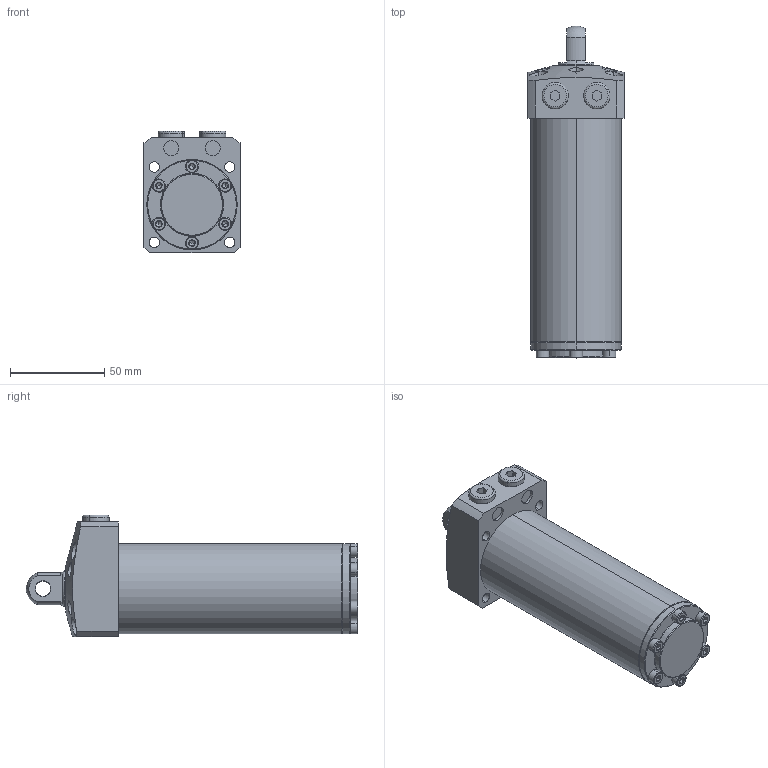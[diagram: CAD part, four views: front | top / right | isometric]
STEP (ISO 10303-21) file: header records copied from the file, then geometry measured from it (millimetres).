
FILE_DESCRIPTION (( 'STEP AP203' ), '1' );
FILE_NAME ('680480-CP-100.STEP', '2019-11-06T04:47:05', ( '微软用户' ), ( '微软中国' ), 'SwSTEP 2.0', 'SolidWorks 2014', '' );
FILE_SCHEMA (( 'CONFIG_CONTROL_DESIGN' ));
Length unit declared in the file: millimetre
Products named in the file (7): 葩璃 680480-15-13^680480-CP-100; 680480-CP-100; 葩璃 680480-CA-51-1^680480-CP-100; 葩璃 680480-CA-51-4^680480-CP-100; 葩璃 680480-CA-51-3^680480-CP-100; 葩璃 680480-CA-51-5^680480-CP-100; 葩璃 680480-CA-51-6^680480-CP-100
Assembly tree (17 placements, depth 2):
  680480-CP-100
    葩璃 680480-CA-51-1^680480-CP-100
    葩璃 680480-CA-51-4^680480-CP-100
    葩璃 680480-CA-51-3^680480-CP-100  x6
    葩璃 680480-CA-51-5^680480-CP-100  x6
    葩璃 680480-CA-51-6^680480-CP-100  x2
    葩璃 680480-15-13^680480-CP-100
Bounding box: 51 x 176 x 64.5 mm (x, y, z)
Volume: 312025.9 mm3; surface area: 55745.5 mm2
Topology: 17 solids, 17 shells, 546 faces, 1034 edges, 542 vertices
Faces by surface type: plane 233, cone 168, cylinder 127, torus 16, sphere 2
Entity records: 7422 total; most frequent: CARTESIAN_POINT 1756, DIRECTION 1071, ORIENTED_EDGE 872, AXIS2_PLACEMENT_3D 449, EDGE_CURVE 436, VERTEX_POINT 260, EDGE_LOOP 254, CIRCLE 219
